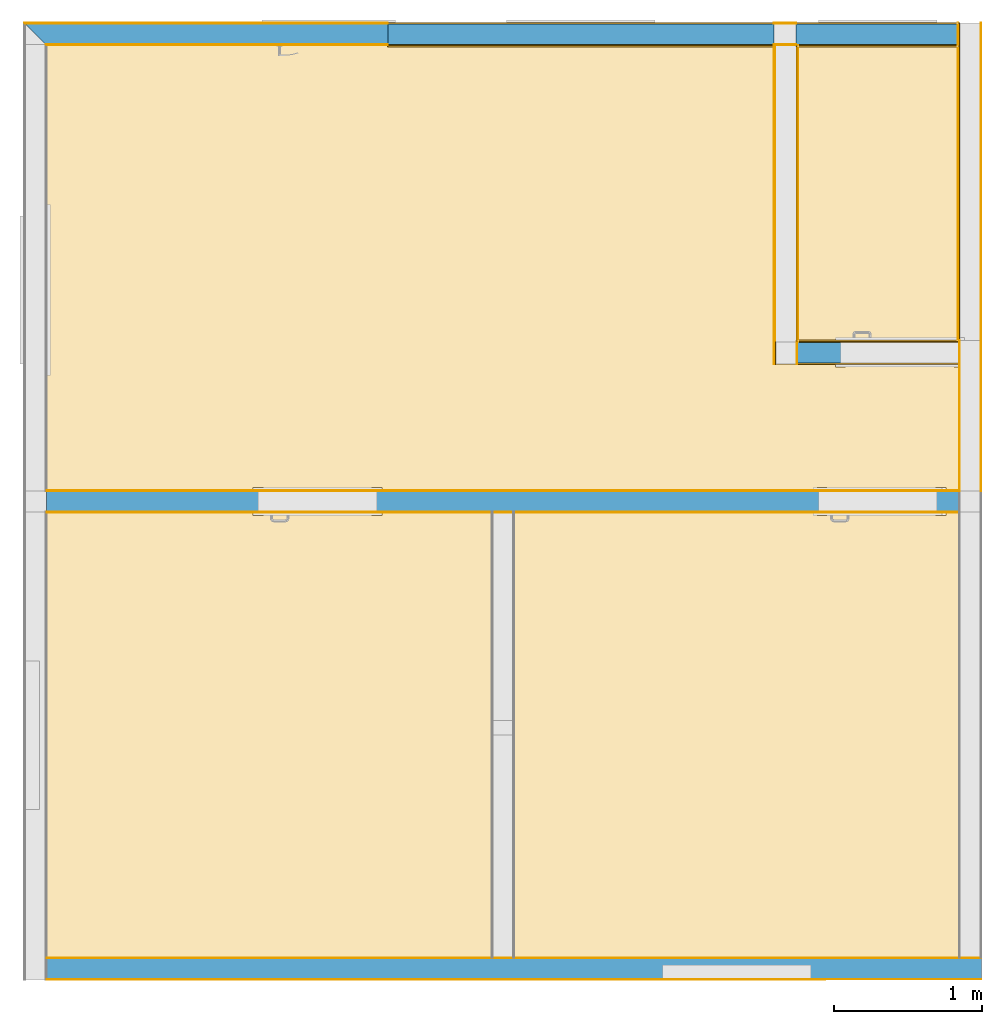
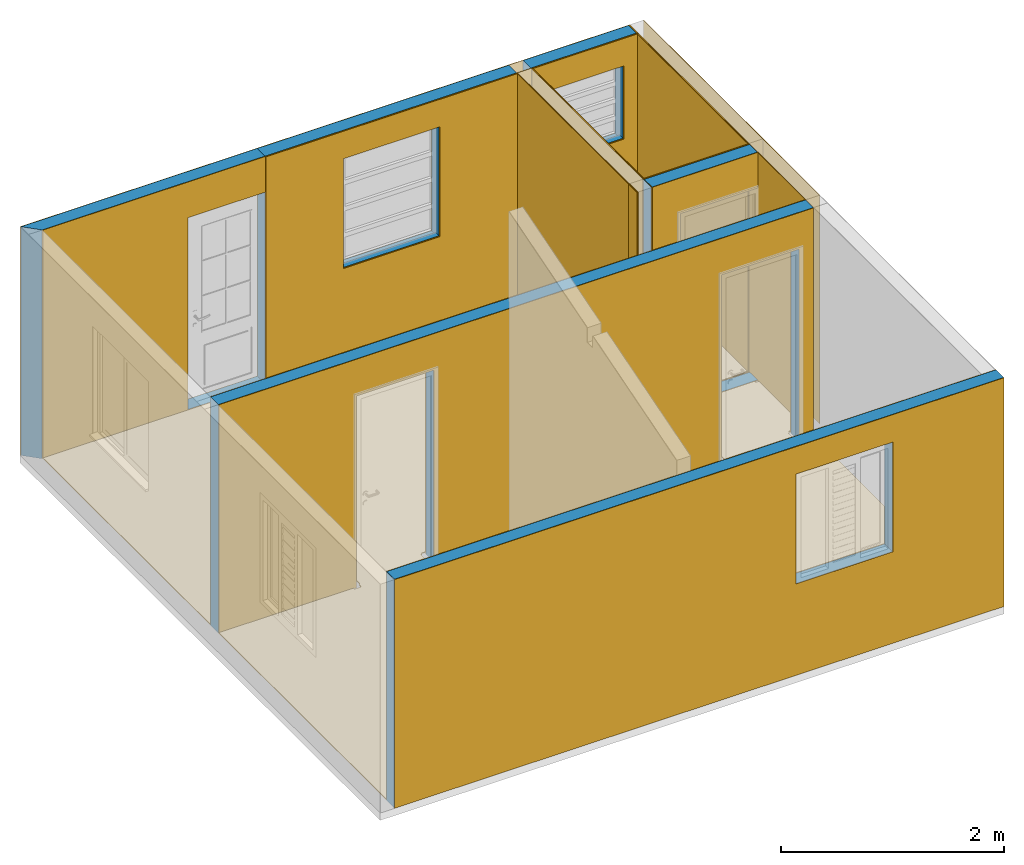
# One storey, part 3 of 7: 30 coverings, 6 building element parts, 7 openings, 11 elements without a shape of their own.
"""IFC2X3 building model written with IfcOpenShell, lengths in millimetres."""

import ifcopenshell
import ifcopenshell.guid

model = None  # the IFC model being written
_history = None  # IfcOwnerHistory: only IFC2X3 demands one
_inside = {}  # id of a spatial element -> (the spatial element, [elements in it])
_under = {}  # id of a project, library or spatial element -> (it, [spatial elements below it])
_declared = {}  # id of a project -> (the project, [libraries it declares])
_typed = {}  # id of a type object -> (the type object, [elements of that type])
_made_of = {}  # id of a material, layer set ... -> (it, [elements and type objects made of it])


def new_model(schema):
    """Start an empty IFC model of exactly this schema.

    Asked for "IFC4X3", IfcOpenShell would pick the latest addendum, in which some entities
    have other attributes; the version numbers below select the first issue.
    IFC2X3 requires an IfcOwnerHistory on every rooted entity: one is made here for all.
    """
    global model, _history
    if schema == "IFC4X3":
        model = ifcopenshell.file(schema_version=(4, 3, 0, 0))
    else:
        model = ifcopenshell.file(schema=schema)
    _inside.clear()
    _under.clear()
    _declared.clear()
    _typed.clear()
    _made_of.clear()
    _history = None
    if model.schema == "IFC2X3":
        org = make("IfcOrganization", Name="unknown")
        user = make(
            "IfcPersonAndOrganization",
            ThePerson=make("IfcPerson", FamilyName="unknown"),
            TheOrganization=org,
        )
        app = make(
            "IfcApplication",
            ApplicationDeveloper=org,
            Version="unknown",
            ApplicationFullName="unknown",
            ApplicationIdentifier="unknown",
        )
        _history = make(
            "IfcOwnerHistory",
            OwningUser=user,
            OwningApplication=app,
            ChangeAction="ADDED",
            CreationDate=0,
        )
    return model


def make(cls, **values):
    """One entity of the class cls with the attributes given. An attribute that is None is left unset."""
    return model.create_entity(
        cls, **{name: value for name, value in values.items() if value is not None}
    )


def entity(cls, *values):
    """Any entity or typed value of the class cls, its attributes in the order of the schema. None: left unset."""
    e = model.create_entity(cls)
    for i, value in enumerate(values):
        if value is not None:
            e[i] = value
    return e


def rooted(cls, **values):
    """An entity with a GlobalId (a new one), such as an element, a storey or a relation."""
    return make(cls, GlobalId=ifcopenshell.guid.new(), OwnerHistory=_history, **values)


def si_unit(unit_type, name, prefix=None):
    """IfcSIUnit, for example si_unit("LENGTHUNIT", "METRE", prefix="MILLI")."""
    return make("IfcSIUnit", UnitType=unit_type, Prefix=prefix, Name=name)


def converted_unit(unit_type, name, factor, base, dimensions=None, offset=None):
    """IfcConversionBasedUnit, such as the inch: factor (a typed value) times the base unit."""
    return make(
        "IfcConversionBasedUnit"
        if offset is None
        else "IfcConversionBasedUnitWithOffset",
        ConversionOffset=offset,
        Dimensions=None
        if dimensions is None
        else entity("IfcDimensionalExponents", *dimensions),
        UnitType=unit_type,
        Name=name,
        ConversionFactor=make(
            "IfcMeasureWithUnit", ValueComponent=factor, UnitComponent=base
        ),
    )


def derived_unit(unit_type, elements):
    """IfcDerivedUnit: a product of units, each with its exponent."""
    return make(
        "IfcDerivedUnit",
        Elements=[
            make("IfcDerivedUnitElement", Unit=unit, Exponent=power)
            for unit, power in elements
        ],
        UnitType=unit_type,
    )


def money_unit(currency):
    """IfcMonetaryUnit."""
    return make("IfcMonetaryUnit", Currency=currency)


def assignment(units):
    """IfcUnitAssignment: the units of a project."""
    return None if units is None else make("IfcUnitAssignment", Units=units)


def point(xyz):
    """IfcCartesianPoint."""
    return None if xyz is None else make("IfcCartesianPoint", Coordinates=xyz)


def direction(xyz):
    """IfcDirection."""
    return None if xyz is None else make("IfcDirection", DirectionRatios=xyz)


def frame(location, z_axis=None, x_axis=None):
    """IfcAxis2Placement3D, a coordinate frame: its origin and axes. An axis left out is left unset."""
    return make(
        "IfcAxis2Placement3D",
        Location=point(location),
        Axis=direction(z_axis),
        RefDirection=direction(x_axis),
    )


def frame_2d(location, x_axis=None):
    """IfcAxis2Placement2D, a coordinate frame in the plane: its origin and x axis."""
    return make(
        "IfcAxis2Placement2D", Location=point(location), RefDirection=direction(x_axis)
    )


def origin_with_axes():
    """The frame at (0, 0, 0) with the z axis (0, 0, 1) and the x axis (1, 0, 0) written out."""
    return frame((0.0, 0.0, 0.0), z_axis=(0.0, 0.0, 1.0), x_axis=(1.0, 0.0, 0.0))


def origin_2d_with_axis():
    """The frame at (0, 0) in the plane with the x axis (1, 0) written out."""
    return frame_2d((0.0, 0.0), x_axis=(1.0, 0.0))


def place(relative_to, where):
    """IfcLocalPlacement: puts the frame where relative to a parent placement (None: the world)."""
    return make(
        "IfcLocalPlacement", PlacementRelTo=relative_to, RelativePlacement=where
    )


def context(
    kind, dimensions, precision=None, world=None, true_north=None, identifier=None
):
    """IfcGeometricRepresentationContext, for example the 3D "Model" context."""
    return make(
        "IfcGeometricRepresentationContext",
        ContextIdentifier=identifier,
        ContextType=kind,
        CoordinateSpaceDimension=dimensions,
        Precision=precision,
        WorldCoordinateSystem=world,
        TrueNorth=true_north,
    )


def subcontext(parent, identifier, kind, view, scale=None):
    """IfcGeometricRepresentationSubContext, for example "Body" below "Model"."""
    return make(
        "IfcGeometricRepresentationSubContext",
        ContextIdentifier=identifier,
        ContextType=kind,
        ParentContext=parent,
        TargetScale=scale,
        TargetView=view,
    )


def project(units=None, contexts=None):
    """IfcProject with its units and contexts."""
    return rooted(
        "IfcProject",
        Name="project",
        RepresentationContexts=contexts,
        UnitsInContext=assignment(units),
    )


def spatial(cls, under=None, at=None, **own):
    """A site, building, storey or space (cls), placed at a placement, below another one or the project."""
    s = rooted(cls, ObjectPlacement=at, **own)
    if under is not None:
        _under.setdefault(under.id(), (under, []))[1].append(s)
    return s


def polyline(points):
    """IfcPolyline through the points."""
    return make("IfcPolyline", Points=[point(p) for p in points])


def profile(cls, at=None, kind="AREA", **sizes):
    """A parametric profile (cls). Its sizes go by their IFC names, for example OverallWidth=200.0."""
    return make(cls, ProfileType=kind, Position=at, **sizes)


def rectangle(**sizes):
    """IfcRectangleProfileDef."""
    return profile("IfcRectangleProfileDef", **sizes)


def outline(outer, holes=None, kind="AREA"):
    """IfcArbitraryClosedProfileDef: a profile drawn as a closed curve; with holes, ...WithVoids."""
    if holes is None:
        return make("IfcArbitraryClosedProfileDef", ProfileType=kind, OuterCurve=outer)
    return make(
        "IfcArbitraryProfileDefWithVoids",
        ProfileType=kind,
        OuterCurve=outer,
        InnerCurves=holes,
    )


def extrude(swept, where, along, depth):
    """IfcExtrudedAreaSolid: the profile swept, set in the frame where, extruded along a direction by depth."""
    return make(
        "IfcExtrudedAreaSolid",
        SweptArea=swept,
        Position=where,
        ExtrudedDirection=direction(along),
        Depth=depth,
    )


def shape(context_of_items, identifier, shape_type, items):
    """IfcShapeRepresentation: the items that make up one representation, for example the "Body"."""
    return make(
        "IfcShapeRepresentation",
        ContextOfItems=context_of_items,
        RepresentationIdentifier=identifier,
        RepresentationType=shape_type,
        Items=items,
    )


def material(Name=None, Category=None):
    """IfcMaterial."""
    return make("IfcMaterial", Name=Name, Category=Category)


def made_of(thing, what):
    """Note that an element or type object is made of a material, layer set ...; save() writes the relation."""
    if what is not None:
        _made_of.setdefault(what.id(), (what, []))[1].append(thing)
    return thing


def type_object(cls, material=None, **own):
    """A type object (cls), such as IfcWallType, which elements share."""
    return made_of(rooted(cls, **own), material)


def element(
    cls,
    number,
    at=None,
    inside=None,
    cuts=None,
    type_object=None,
    material=None,
    context=None,
    identifier="Body",
    shape_type=None,
    held_by="IfcProductDefinitionShape",
    body=None,
    shapes=None,
    **own,
):
    """One element of the class cls, such as IfcWall. Its Tag is "e" and its number.

    at: its placement. inside: the storey or other place that contains it. cuts: it is an
    opening in that element (IfcRelVoidsElement). A single representation is given by context,
    identifier, shape_type and body (its items); several are given by shapes. held_by: the class
    of the entity that holds the representations. save() writes the other relations.
    """
    e = rooted(cls, Tag="e%d" % number, ObjectPlacement=at, **own)
    if body is not None:
        shapes = [shape(context, identifier, shape_type, body)]
    if shapes is not None:
        e.Representation = make(held_by, Representations=shapes)
    if inside is not None:
        _inside.setdefault(inside.id(), (inside, []))[1].append(e)
    if cuts is not None:
        rooted(
            "IfcRelVoidsElement", RelatingBuildingElement=cuts, RelatedOpeningElement=e
        )
    if type_object is not None:
        _typed.setdefault(type_object.id(), (type_object, []))[1].append(e)
    return made_of(e, material)


def aggregate(whole, parts):
    """IfcRelAggregates: a whole, such as a stair, and the parts it consists of."""
    return rooted("IfcRelAggregates", RelatingObject=whole, RelatedObjects=parts)


def save(model, path):
    """Write the relations noted so far, then the file.

    IfcRelAggregates (storeys below a building ...), IfcRelContainedInSpatialStructure (elements
    in a storey), IfcRelDefinesByType, IfcRelAssociatesMaterial and IfcRelDeclares: one each for
    every whole, place, type object, material and project.
    """
    for whole, parts in _under.values():
        aggregate(whole, parts)
    for where, things in _inside.values():
        rooted(
            "IfcRelContainedInSpatialStructure",
            RelatedElements=things,
            RelatingStructure=where,
        )
    for kind, things in _typed.values():
        rooted("IfcRelDefinesByType", RelatedObjects=things, RelatingType=kind)
    for what, things in _made_of.values():
        rooted("IfcRelAssociatesMaterial", RelatedObjects=things, RelatingMaterial=what)
    for by, libraries in _declared.values():
        rooted("IfcRelDeclares", RelatingContext=by, RelatedDefinitions=libraries)
    model.write(path)


model = new_model("IFC2X3")

# Units and contexts
model_context = context("Model", 3, precision=0.01, world=origin_with_axes(), true_north=direction((0.0, 1.0)))
body_context = subcontext(model_context, "Body", "Model", "MODEL_VIEW")
ifc_project = project(units=[si_unit("LENGTHUNIT", "METRE", prefix="MILLI"), si_unit("AREAUNIT", "SQUARE_METRE"), si_unit("VOLUMEUNIT", "CUBIC_METRE"), converted_unit("PLANEANGLEUNIT", "DEGREE", entity("IfcPlaneAngleMeasure", 0.0174532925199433), si_unit("PLANEANGLEUNIT", "RADIAN"), dimensions=[0, 0, 0, 0, 0, 0, 0]), money_unit("USD"), converted_unit("TIMEUNIT", "Year", entity("IfcTimeMeasure", 31557600.0), si_unit("TIMEUNIT", "SECOND"), dimensions=[0, 0, 1, 0, 0, 0, 0]), si_unit("MASSUNIT", "GRAM", prefix="KILO"), si_unit("THERMODYNAMICTEMPERATUREUNIT", "DEGREE_CELSIUS"), si_unit("LUMINOUSINTENSITYUNIT", "LUMEN"), si_unit("ENERGYUNIT", "JOULE", prefix="MEGA"), derived_unit("THERMALCONDUCTANCEUNIT", [(si_unit("POWERUNIT", "WATT"), 1), (si_unit("LENGTHUNIT", "METRE"), -1), (si_unit("THERMODYNAMICTEMPERATUREUNIT", "KELVIN"), -1)]), derived_unit("SPECIFICHEATCAPACITYUNIT", [(si_unit("ENERGYUNIT", "JOULE"), 1), (si_unit("MASSUNIT", "GRAM", prefix="KILO"), -1), (si_unit("THERMODYNAMICTEMPERATUREUNIT", "KELVIN"), -1)]), derived_unit("MASSDENSITYUNIT", [(si_unit("MASSUNIT", "GRAM", prefix="KILO"), 1), (si_unit("VOLUMEUNIT", "CUBIC_METRE"), -1)])], contexts=[model_context])

# Site, building, storey
site_placement = place(None, origin_with_axes())
site = spatial("IfcSite", under=ifc_project, at=site_placement, Name="Local", CompositionType="ELEMENT")
building_placement = place(site_placement, origin_with_axes())
building = spatial("IfcBuilding", under=site, at=building_placement, Name="Construção", CompositionType="ELEMENT")
storey_placement = place(building_placement, origin_with_axes())
storey = spatial("IfcBuildingStorey", under=building, at=storey_placement, Name="Pavimento Térreo", CompositionType="ELEMENT", Elevation=0.0)

# Covering
ifc_material_1 = material(Name="Cerâmica")
covering_type = type_object("IfcCoveringType", Name="Cerâmica 10", PredefinedType="FLOORING")
covering_1_placement = place(storey_placement, frame((5209.999999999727, 6290.000000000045, 0.0), z_axis=(0.0, 0.0, 1.0), x_axis=(1.0, 0.0, 0.0)))
element("IfcCovering", 1, at=covering_1_placement, inside=storey, type_object=covering_type, material=ifc_material_1, Name="P01", PredefinedType="FLOORING", context=body_context, shape_type="SweptSolid", body=[
    extrude(outline(polyline([(0.0, 0.0), (0.0, -1980.000000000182), (254.7091901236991, -1980.000000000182), (255.0000000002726, -1971.000000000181), (325.0406814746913, -1971.000000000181), (325.0406814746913, -1990.000000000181), (330.0000000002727, -1990.000000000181), (330.0000000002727, -2020.000000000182), (340.0000000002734, -2020.000000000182), (340.0000000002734, -2140.000000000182), (325.0406814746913, -2140.744091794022), (325.0406814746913, -2159.691333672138), (255.0000000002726, -2159.000000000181), (255.0000000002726, -2140.000000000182), (-169.9999999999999, -2140.0), (-169.9999999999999, 0.0), (-2759.999999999, 0.0), (-2759.999999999, 9.999999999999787), (-2779.999999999, 9.999999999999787), (-2779.999999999, 160.0000000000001), (-3539.999999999, 160.0000000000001), (-3539.999999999, 9.999999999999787), (-5059.999999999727, 9.999999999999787), (-5059.999999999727, -2990.000000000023), (-3670.343714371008, -2989.999999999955), (-3670.000000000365, -2971.000000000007), (-3599.095766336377, -2971.000000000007), (-3599.095766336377, -2989.999999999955), (-3585.000000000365, -2990.000000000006), (-3585.000000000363, -3110.000000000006), (-3595.000000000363, -3110.000000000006), (-3595.000000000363, -3140.000000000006), (-3599.095766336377, -3140.000000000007), (-3600.048046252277, -3140.000000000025), (-3600.048046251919, -3159.197561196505), (-3670.000000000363, -3159.000000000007), (-3670.000000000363, -3140.000000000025), (-5059.999999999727, -3140.000000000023), (-5059.999999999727, -6140.000000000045), (-2060.0, -6140.000000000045), (-2060.0, -3139.99999999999), (-2800.866265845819, -3140.000000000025), (-2800.000000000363, -3158.999999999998), (-2869.797439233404, -3158.413207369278), (-2869.72003995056, -3140.000000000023), (-2875.000000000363, -3139.999999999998), (-2875.000000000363, -3109.999999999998), (-2885.000000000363, -3109.999999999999), (-2885.000000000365, -2989.999999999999), (-2869.720039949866, -2989.999999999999), (-2869.720039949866, -2971.000000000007), (-2800.000000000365, -2970.999999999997), (-2800.000000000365, -2989.999999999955), (129.6656462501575, -2989.999999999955), (130.0000000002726, -2970.999999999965), (199.8065061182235, -2971.000000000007), (199.8065061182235, -2989.999999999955), (215.0000000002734, -2989.999999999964), (215.0000000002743, -3109.999999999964), (205.0000000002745, -3109.999999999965), (205.0000000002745, -3139.999999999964), (199.8065061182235, -3139.999999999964), (199.8065061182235, -3159.000000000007), (130.0000000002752, -3158.999999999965), (130.0000000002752, -3140.000000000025), (-1910.0, -3139.999999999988), (-1910.0, -6140.000000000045), (1090.00000000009, -6140.000000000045), (1090.00000000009, -3139.999999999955), (1000.266337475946, -3140.000000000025), (1000.000000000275, -3158.999999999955), (929.5097546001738, -3159.000000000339), (929.5097546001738, -3140.000000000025), (925.0000000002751, -3139.999999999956), (925.0000000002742, -3109.999999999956), (915.0000000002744, -3109.999999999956), (915.0000000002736, -2989.999999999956), (929.5097546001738, -2989.999999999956), (929.5097546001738, -2969.921192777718), (1000.000000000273, -2970.999999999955), (1000.000000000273, -2989.999999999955), (1090.0, -2989.999999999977), (1090.00000000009, -2159.691333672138), (1054.774691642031, -2159.691333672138), (1054.774691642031, -2140.000000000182), (1040.000000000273, -2140.000000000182), (1040.000000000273, -2020.000000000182), (1050.000000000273, -2020.000000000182), (1050.000000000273, -1990.000000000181), (1054.774691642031, -1990.000000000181), (1054.774691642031, -1971.000000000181), (1080.000000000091, -1970.982898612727), (1080.000000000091, 0.0), (0.0, 0.0)])), origin_with_axes(), (0.0, 0.0, 1.0), 10.0),
])

# Wall, opening, coverings
wall_type_1 = type_object("IfcWallType", Name="Alvenaria 140, Rebocada 2 Faces 150", PredefinedType="NOTDEFINED")
wall_1_placement = place(storey_placement, frame((150.0, 0.0, 0.0), z_axis=(0.0, 0.0, 1.0), x_axis=(1.0, 0.0, 0.0)))
wall_1 = element("IfcWall", 2, at=wall_1_placement, inside=storey, type_object=wall_type_1, Name="Parede-02")
opening_1_placement = place(wall_1_placement, frame((4650.000000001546, 0.0, 1000.0), z_axis=(0.0, 0.0, 1.0), x_axis=(1.0, 0.0, 0.0)))
element("IfcOpeningElement", 3, at=opening_1_placement, cuts=wall_1, Name="J04", context=body_context, shape_type="SweptSolid", body=[
    extrude(rectangle(XDim=1000.0, YDim=1200.0, at=origin_2d_with_axis()), frame((0.0, 150.0000000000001, 600.0000000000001), z_axis=(0.0, -1.0, 0.0), x_axis=(-1.0, 0.0, 0.0)), (0.0, 0.0, 1.0), 450.0000000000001),
])
ifc_material_2 = material(Name="Reboco DEF")
covering_2_placement = place(wall_1_placement, origin_with_axes())
covering_2 = element("IfcCovering", 4, at=covering_2_placement, material=ifc_material_2, Name="Reboco DEF", PredefinedType="CLADDING", context=body_context, shape_type="SweptSolid", body=[
    extrude(outline(polyline([(0.0, 0.0), (6299.999999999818, 0.0), (6299.999999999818, 5.000000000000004), (0.0, 5.000000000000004), (0.0, 0.0)])), origin_with_axes(), (0.0, 0.0, 1.0), 2500.0),
])
covering_3_placement = place(wall_1_placement, origin_with_axes())
covering_3 = element("IfcCovering", 5, at=covering_3_placement, material=ifc_material_2, Name="Reboco DEF", PredefinedType="CLADDING", context=body_context, shape_type="SweptSolid", body=[
    extrude(outline(polyline([(0.0, 145.0), (6299.999999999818, 145.0), (6299.999999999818, 150.0), (0.0, 150.0), (0.0, 145.0)])), origin_with_axes(), (0.0, 0.0, 1.0), 2500.0),
])

wall_type_2 = type_object("IfcWallType", Name="Alvenaria 140, Rebocada + Azulejo 160", PredefinedType="NOTDEFINED")
wall_2_placement = place(storey_placement, frame((6299.999999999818, 6450.000000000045, 0.0), z_axis=(0.0, 0.0, 1.0), x_axis=(-1.0, 0.0, 0.0)))
wall_2 = element("IfcWall", 6, at=wall_2_placement, inside=storey, type_object=wall_type_2, Name="Parede-04 - Trecho 4")
opening_2_placement = place(wall_2_placement, frame((550.0000000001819, 0.0, 1400.0), z_axis=(0.0, 0.0, 1.0), x_axis=(1.0, 0.0, 0.0)))
element("IfcOpeningElement", 7, at=opening_2_placement, cuts=wall_2, Name="J05", context=body_context, shape_type="SweptSolid", body=[
    extrude(rectangle(XDim=800.0000000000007, YDim=800.0000000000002, at=origin_2d_with_axis()), frame((0.0, 49.99999999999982, 400.0000000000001), z_axis=(0.0, -1.0, 0.0), x_axis=(-1.0, 0.0, 0.0)), (0.0, 0.0, -1.0), 270.0000000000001),
    extrude(rectangle(XDim=800.0000000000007, YDim=800.0000000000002, at=origin_2d_with_axis()), frame((0.0, 49.99999999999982, 400.0000000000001), z_axis=(0.0, 1.0, 0.0), x_axis=(-1.0, 0.0, 0.0)), (0.0, 0.0, -1.0), 210.0),
    extrude(rectangle(XDim=800.0000000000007, YDim=30.00000000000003, at=origin_2d_with_axis()), frame((0.0, 84.99999999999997, -15.00000000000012), z_axis=(0.0, 1.0, 0.0), x_axis=(-1.0, 0.0, 0.0)), (0.0, 0.0, -1.0), 195.0),
])
covering_4_placement = place(wall_2_placement, origin_with_axes())
covering_4 = element("IfcCovering", 8, at=covering_4_placement, material=ifc_material_2, Name="Reboco DEF", PredefinedType="CLADDING", context=body_context, shape_type="SweptSolid", body=[
    extrude(outline(polyline([(0.0, 0.0), (1100.00000000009, 0.0), (1100.00000000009, 4.999999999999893), (0.0, 4.999999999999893), (0.0, 0.0)])), origin_with_axes(), (0.0, 0.0, 1.0), 2500.0),
])
ifc_material_3 = material(Name="Argamassa Colante DEF")
covering_5_placement = place(wall_2_placement, origin_with_axes())
covering_5 = element("IfcCovering", 9, at=covering_5_placement, material=ifc_material_3, Name="Argamassa Colante DEF", PredefinedType="CLADDING", context=body_context, shape_type="SweptSolid", body=[
    extrude(outline(polyline([(0.0, 145.0000000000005), (1100.00000000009, 145.0000000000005), (1100.00000000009, 155.0000000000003), (0.0, 155.0000000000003), (0.0, 145.0000000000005)])), origin_with_axes(), (0.0, 0.0, 1.0), 2500.0),
])
ifc_material_4 = material(Name="Azulejo DEF")
covering_6_placement = place(wall_2_placement, origin_with_axes())
covering_6 = element("IfcCovering", 10, at=covering_6_placement, material=ifc_material_4, Name="Azulejo DEF", PredefinedType="CLADDING", context=body_context, shape_type="SweptSolid", body=[
    extrude(outline(polyline([(0.0, 155.0000000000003), (1100.00000000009, 155.0000000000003), (1100.00000000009, 160.0000000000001), (0.0, 160.0000000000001), (0.0, 155.0000000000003)])), origin_with_axes(), (0.0, 0.0, 1.0), 2500.0),
])

# Wall, coverings
wall_type_3 = type_object("IfcWallType", Name="Alvenaria 140, Azulejo + Rebocada 160", PredefinedType="NOTDEFINED")
wall_3_placement = place(storey_placement, frame((5049.999999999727, 4299.999999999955, 0.0), z_axis=(0.0, 0.0, 1.0), x_axis=(0.0, -1.0, 0.0)))
wall_3 = element("IfcWall", 11, at=wall_3_placement, inside=storey, type_object=wall_type_3, Name="Parede-07 - Trecho 2")
covering_7_placement = place(wall_3_placement, origin_with_axes())
covering_7 = element("IfcCovering", 12, at=covering_7_placement, material=ifc_material_4, Name="Azulejo DEF", PredefinedType="CLADDING", context=body_context, shape_type="SweptSolid", body=[
    extrude(outline(polyline([(0.0, 0.0), (150.0000000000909, 0.0), (150.0000000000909, 4.999999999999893), (0.0, 4.999999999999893), (0.0, 0.0)])), origin_with_axes(), (0.0, 0.0, 1.0), 2500.0),
])
covering_8_placement = place(wall_3_placement, origin_with_axes())
covering_8 = element("IfcCovering", 13, at=covering_8_placement, material=ifc_material_3, Name="Argamassa Colante DEF", PredefinedType="CLADDING", context=body_context, shape_type="SweptSolid", body=[
    extrude(outline(polyline([(0.0, 4.999999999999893), (150.0000000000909, 4.999999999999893), (150.0000000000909, 14.99999999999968), (0.0, 14.99999999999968), (0.0, 4.999999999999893)])), origin_with_axes(), (0.0, 0.0, 1.0), 2500.0),
])
covering_9_placement = place(wall_3_placement, origin_with_axes())
covering_9 = element("IfcCovering", 14, at=covering_9_placement, material=ifc_material_2, Name="Reboco DEF", PredefinedType="CLADDING", context=body_context, shape_type="SweptSolid", body=[
    extrude(outline(polyline([(0.0, 155.0000000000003), (150.0000000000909, 155.0000000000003), (150.0000000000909, 160.0000000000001), (0.0, 160.0000000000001), (0.0, 155.0000000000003)])), origin_with_axes(), (0.0, 0.0, 1.0), 2500.0),
])
aggregate(wall_3, [covering_7, covering_8, covering_9])

wall_type_4 = type_object("IfcWallType", Name="Alvenaria 140, Azulejo + Azulejo 165", PredefinedType="NOTDEFINED")
wall_4_placement = place(storey_placement, frame((5049.999999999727, 6299.999999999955, 0.0), z_axis=(0.0, 0.0, 1.0), x_axis=(0.0, -1.0, 0.0)))
wall_4 = element("IfcWall", 15, at=wall_4_placement, inside=storey, type_object=wall_type_4, Name="Parede-07 - Trecho 1")
covering_10_placement = place(wall_4_placement, origin_with_axes())
covering_10 = element("IfcCovering", 16, at=covering_10_placement, material=ifc_material_4, Name="Azulejo DEF", PredefinedType="CLADDING", context=body_context, shape_type="SweptSolid", body=[
    extrude(outline(polyline([(0.0, 0.0), (2000.0, 0.0), (2000.0, 4.999999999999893), (0.0, 4.999999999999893), (0.0, 0.0)])), origin_with_axes(), (0.0, 0.0, 1.0), 2500.0),
])
covering_11_placement = place(wall_4_placement, origin_with_axes())
covering_11 = element("IfcCovering", 17, at=covering_11_placement, material=ifc_material_3, Name="Argamassa Colante DEF", PredefinedType="CLADDING", context=body_context, shape_type="SweptSolid", body=[
    extrude(outline(polyline([(0.0, 4.999999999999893), (2000.0, 4.999999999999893), (2000.0, 9.999999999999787), (0.0, 9.999999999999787), (0.0, 4.999999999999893)])), origin_with_axes(), (0.0, 0.0, 1.0), 2500.0),
])
covering_12_placement = place(wall_4_placement, origin_with_axes())
covering_12 = element("IfcCovering", 18, at=covering_12_placement, material=ifc_material_3, Name="Argamassa Colante DEF", PredefinedType="CLADDING", context=body_context, shape_type="SweptSolid", body=[
    extrude(outline(polyline([(0.0, 150.0000000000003), (2000.0, 150.0000000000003), (2000.0, 160.0000000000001), (0.0, 160.0000000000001), (0.0, 150.0000000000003)])), origin_with_axes(), (0.0, 0.0, 1.0), 2500.0),
])
covering_13_placement = place(wall_4_placement, origin_with_axes())
covering_13 = element("IfcCovering", 19, at=covering_13_placement, material=ifc_material_4, Name="Azulejo DEF", PredefinedType="CLADDING", context=body_context, shape_type="SweptSolid", body=[
    extrude(outline(polyline([(0.0, 160.0000000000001), (2000.0, 160.0000000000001), (2000.0, 165.0), (0.0, 165.0), (0.0, 160.0000000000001)])), origin_with_axes(), (0.0, 0.0, 1.0), 2500.0),
])
aggregate(wall_4, [covering_10, covering_11, covering_12, covering_13])

# Wall, opening, coverings
wall_5_placement = place(storey_placement, frame((5199.999999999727, 4149.999999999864, 0.0), z_axis=(0.0, 0.0, 1.0), x_axis=(1.0, 0.0, 0.0)))
wall_5 = element("IfcWall", 20, at=wall_5_placement, inside=storey, type_object=wall_type_2, Name="Parede-08")
opening_3_placement = place(wall_5_placement, frame((700.0000000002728, 0.0, 10.0), z_axis=(0.0, 0.0, 1.0), x_axis=(1.0, 0.0, 0.0)))
element("IfcOpeningElement", 21, at=opening_3_placement, cuts=wall_5, Name="P02", context=body_context, shape_type="SweptSolid", body=[
    extrude(rectangle(XDim=800.0000000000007, YDim=2100.0, at=origin_2d_with_axis()), frame((0.0, 160.0000000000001, 1050.0), z_axis=(0.0, -1.0, 0.0), x_axis=(1.0, 0.0, 0.0)), (0.0, 0.0, 1.0), 480.0000000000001),
    extrude(rectangle(XDim=870.000000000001, YDim=2135.0, at=origin_2d_with_axis()), frame((0.0, 160.0000000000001, 1067.5), z_axis=(0.0, -1.0, 0.0), x_axis=(1.0, 0.0, 0.0)), (0.0, 0.0, -1.0), 160.0),
    extrude(rectangle(XDim=870.000000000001, YDim=2135.0, at=origin_2d_with_axis()), frame((0.0, 0.0, 1067.5), z_axis=(0.0, 1.0, 0.0), x_axis=(1.0, 0.0, 0.0)), (0.0, 0.0, -1.0), 160.0),
])
covering_14_placement = place(wall_5_placement, origin_with_axes())
covering_14 = element("IfcCovering", 22, at=covering_14_placement, material=ifc_material_2, Name="Reboco DEF", PredefinedType="CLADDING", context=body_context, shape_type="SweptSolid", body=[
    extrude(outline(polyline([(0.0, 0.0), (1100.00000000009, 0.0), (1100.00000000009, 4.999999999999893), (0.0, 4.999999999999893), (0.0, 0.0)])), origin_with_axes(), (0.0, 0.0, 1.0), 2500.0),
])
covering_15_placement = place(wall_5_placement, origin_with_axes())
covering_15 = element("IfcCovering", 23, at=covering_15_placement, material=ifc_material_3, Name="Argamassa Colante DEF", PredefinedType="CLADDING", context=body_context, shape_type="SweptSolid", body=[
    extrude(outline(polyline([(0.0, 145.0000000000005), (1100.00000000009, 145.0000000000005), (1100.00000000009, 155.0000000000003), (0.0, 155.0000000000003), (0.0, 145.0000000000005)])), origin_with_axes(), (0.0, 0.0, 1.0), 2500.0),
])
covering_16_placement = place(wall_5_placement, origin_with_axes())
covering_16 = element("IfcCovering", 24, at=covering_16_placement, material=ifc_material_4, Name="Azulejo DEF", PredefinedType="CLADDING", context=body_context, shape_type="SweptSolid", body=[
    extrude(outline(polyline([(0.0, 155.0000000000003), (1100.00000000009, 155.0000000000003), (1100.00000000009, 160.0000000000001), (0.0, 160.0000000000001), (0.0, 155.0000000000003)])), origin_with_axes(), (0.0, 0.0, 1.0), 2500.0),
])

# Wall, openings, coverings
wall_6_placement = place(storey_placement, frame((6449.999999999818, 3300.00000000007, 0.0), z_axis=(0.0, 0.0, 1.0), x_axis=(-1.0, 0.0, 0.0)))
wall_6 = element("IfcWall", 25, at=wall_6_placement, inside=storey, type_object=wall_type_1, Name="Parede-05")
opening_4_placement = place(wall_6_placement, frame((700.0000000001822, 0.0, 0.0), z_axis=(0.0, 0.0, 1.0), x_axis=(1.0, 0.0, 0.0)))
element("IfcOpeningElement", 26, at=opening_4_placement, cuts=wall_6, Name="P04", context=body_context, shape_type="SweptSolid", body=[
    extrude(rectangle(XDim=800.0000000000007, YDim=2100.0, at=origin_2d_with_axis()), frame((0.0, 149.9999999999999, 1050.0), z_axis=(0.0, 1.0, 0.0), x_axis=(-1.0, 0.0, 0.0)), (0.0, 0.0, -1.0), 450.0000000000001),
    extrude(rectangle(XDim=870.000000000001, YDim=2135.0, at=origin_2d_with_axis()), frame((0.0, 149.9999999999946, 1067.5), z_axis=(0.0, 1.0, 0.0), x_axis=(-1.0, 0.0, 0.0)), (0.0, 0.0, 1.0), 150.0),
    extrude(rectangle(XDim=870.000000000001, YDim=2135.0, at=origin_2d_with_axis()), frame((0.0, 0.0, 1067.5), z_axis=(0.0, -1.0, 0.0), x_axis=(-1.0, 0.0, 0.0)), (0.0, 0.0, 1.0), 150.0),
])
opening_5_placement = place(wall_6_placement, frame((4475.000000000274, 0.0, 0.0), z_axis=(0.0, 0.0, 1.0), x_axis=(1.0, 0.0, 0.0)))
element("IfcOpeningElement", 27, at=opening_5_placement, cuts=wall_6, Name="P03", context=body_context, shape_type="SweptSolid", body=[
    extrude(rectangle(XDim=799.9999999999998, YDim=2100.0, at=origin_2d_with_axis()), frame((0.0, -149.9999999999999, 1050.0), z_axis=(0.0, -1.0, 0.0), x_axis=(-1.0, 0.0, 0.0)), (0.0, 0.0, -1.0), 450.0000000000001),
    extrude(rectangle(XDim=870.0000000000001, YDim=2135.0, at=origin_2d_with_axis()), frame((0.0, 0.0, 1067.5), z_axis=(0.0, -1.0, 0.0), x_axis=(-1.0, 0.0, 0.0)), (0.0, 0.0, 1.0), 150.0),
    extrude(rectangle(XDim=870.0000000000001, YDim=2135.0, at=origin_2d_with_axis()), frame((0.0, 149.9999999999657, 1067.5), z_axis=(0.0, 1.0, 0.0), x_axis=(-1.0, 0.0, 0.0)), (0.0, 0.0, 1.0), 150.0),
])
covering_17_placement = place(wall_6_placement, origin_with_axes())
covering_17 = element("IfcCovering", 28, at=covering_17_placement, material=ifc_material_2, Name="Reboco DEF", PredefinedType="CLADDING", context=body_context, shape_type="SweptSolid", body=[
    extrude(outline(polyline([(150.0000000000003, 0.0), (6299.999999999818, 0.0), (6299.999999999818, 4.999999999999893), (150.0000000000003, 4.999999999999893), (150.0000000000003, 0.0)])), origin_with_axes(), (0.0, 0.0, 1.0), 2500.0),
])
covering_18_placement = place(wall_6_placement, origin_with_axes())
covering_18 = element("IfcCovering", 29, at=covering_18_placement, material=ifc_material_2, Name="Reboco DEF", PredefinedType="CLADDING", context=body_context, shape_type="SweptSolid", body=[
    extrude(outline(polyline([(150.0000000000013, 145.0), (6299.999999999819, 145.0), (6299.999999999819, 149.9999999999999), (150.0000000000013, 149.9999999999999), (150.0000000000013, 145.0)])), origin_with_axes(), (0.0, 0.0, 1.0), 2500.0),
])

# Wall, opening, coverings
wall_7_placement = place(storey_placement, frame((2450.000000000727, 6450.000000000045, 0.0), z_axis=(0.0, 0.0, 1.0), x_axis=(-1.0, 0.0, 0.0)))
wall_7 = element("IfcWall", 30, at=wall_7_placement, inside=storey, type_object=wall_type_1, Name="Parede-04 - Trecho 1")
opening_6_placement = place(wall_7_placement, frame((399.9999999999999, 0.0, 10.0), z_axis=(0.0, 0.0, 1.0), x_axis=(1.0, 0.0, 0.0)))
element("IfcOpeningElement", 31, at=opening_6_placement, cuts=wall_7, Name="P01", context=body_context, shape_type="SweptSolid", body=[
    extrude(rectangle(XDim=799.9999999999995, YDim=2100.0, at=origin_2d_with_axis()), frame((0.0, 150.0000000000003, 1050.0), z_axis=(0.0, 1.0, 0.0), x_axis=(-1.0, 0.0, 0.0)), (0.0, 0.0, -1.0), 450.0000000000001),
    extrude(rectangle(XDim=900.0000000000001, YDim=2150.0, at=origin_2d_with_axis()), frame((0.0, 0.0, 1075.0), z_axis=(0.0, -1.0, 0.0), x_axis=(-1.0, 0.0, 0.0)), (0.0, 0.0, 1.0), 150.0),
])
covering_19_placement = place(wall_7_placement, origin_with_axes())
covering_19 = element("IfcCovering", 32, at=covering_19_placement, material=ifc_material_2, Name="Reboco DEF", PredefinedType="CLADDING", context=body_context, shape_type="SweptSolid", body=[
    extrude(outline(polyline([(0.0, 0.0), (2450.000000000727, 0.0), (2445.000000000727, 4.999999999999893), (0.0, 4.999999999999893), (0.0, 0.0)])), origin_with_axes(), (0.0, 0.0, 1.0), 2500.0),
])
covering_20_placement = place(wall_7_placement, origin_with_axes())
covering_20 = element("IfcCovering", 33, at=covering_20_placement, material=ifc_material_2, Name="Reboco DEF", PredefinedType="CLADDING", context=body_context, shape_type="SweptSolid", body=[
    extrude(outline(polyline([(0.0, 145.0000000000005), (2305.000000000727, 145.0000000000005), (2300.000000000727, 150.0000000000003), (0.0, 150.0000000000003), (0.0, 145.0000000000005)])), origin_with_axes(), (0.0, 0.0, 1.0), 2500.0),
])

wall_8_placement = place(storey_placement, frame((5049.999999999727, 6450.000000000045, 0.0), z_axis=(0.0, 0.0, 1.0), x_axis=(-1.0, 0.0, 0.0)))
wall_8 = element("IfcWall", 34, at=wall_8_placement, inside=storey, type_object=wall_type_2, Name="Parede-04 - Trecho 2")
opening_7_placement = place(wall_8_placement, frame((1299.999999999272, 0.0, 1000.0), z_axis=(0.0, 0.0, 1.0), x_axis=(1.0, 0.0, 0.0)))
element("IfcOpeningElement", 35, at=opening_7_placement, cuts=wall_8, Name="J01", context=body_context, shape_type="SweptSolid", body=[
    extrude(rectangle(XDim=999.9999999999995, YDim=1200.0, at=origin_2d_with_axis()), frame((0.0, 49.99999999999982, 600.0000000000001), z_axis=(0.0, -1.0, 0.0), x_axis=(-1.0, 0.0, 0.0)), (0.0, 0.0, -1.0), 270.0000000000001),
    extrude(rectangle(XDim=1000.0, YDim=1200.0, at=origin_2d_with_axis()), frame((0.0, 49.99999999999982, 600.0000000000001), z_axis=(0.0, 1.0, 0.0), x_axis=(-1.0, 0.0, 0.0)), (0.0, 0.0, -1.0), 210.0),
    extrude(rectangle(XDim=1000.0, YDim=30.00000000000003, at=origin_2d_with_axis()), frame((0.0, 84.99999999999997, -15.00000000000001), z_axis=(0.0, 1.0, 0.0), x_axis=(-1.0, 0.0, 0.0)), (0.0, 0.0, -1.0), 195.0),
])
covering_21_placement = place(wall_8_placement, origin_with_axes())
covering_21 = element("IfcCovering", 36, at=covering_21_placement, material=ifc_material_2, Name="Reboco DEF", PredefinedType="CLADDING", context=body_context, shape_type="SweptSolid", body=[
    extrude(outline(polyline([(0.0, 0.0), (2599.999999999, 0.0), (2599.999999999, 4.999999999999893), (0.0, 4.999999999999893), (0.0, 0.0)])), origin_with_axes(), (0.0, 0.0, 1.0), 2500.0),
])
covering_22_placement = place(wall_8_placement, origin_with_axes())
covering_22 = element("IfcCovering", 37, at=covering_22_placement, material=ifc_material_3, Name="Argamassa Colante DEF", PredefinedType="CLADDING", context=body_context, shape_type="SweptSolid", body=[
    extrude(outline(polyline([(0.0, 145.0000000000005), (2599.999999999, 145.0000000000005), (2599.999999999, 155.0000000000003), (0.0, 155.0000000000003), (0.0, 145.0000000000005)])), origin_with_axes(), (0.0, 0.0, 1.0), 2500.0),
])
covering_23_placement = place(wall_8_placement, origin_with_axes())
covering_23 = element("IfcCovering", 38, at=covering_23_placement, material=ifc_material_4, Name="Azulejo DEF", PredefinedType="CLADDING", context=body_context, shape_type="SweptSolid", body=[
    extrude(outline(polyline([(0.0, 155.0000000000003), (2599.999999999, 155.0000000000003), (2599.999999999, 160.0000000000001), (0.0, 160.0000000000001), (0.0, 155.0000000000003)])), origin_with_axes(), (0.0, 0.0, 1.0), 2500.0),
])

# Wall, coverings
wall_9_placement = place(storey_placement, frame((6449.999999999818, 4309.999999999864, 0.0), z_axis=(0.0, 0.0, 1.0), x_axis=(0.0, 1.0, 0.0)))
wall_9 = element("IfcWall", 39, at=wall_9_placement, inside=storey, type_object=wall_type_2, Name="Parede-03 - Trecho 1")
covering_24_placement = place(wall_9_placement, origin_with_axes())
covering_24 = element("IfcCovering", 40, at=covering_24_placement, material=ifc_material_2, Name="Reboco DEF", PredefinedType="CLADDING", context=body_context, shape_type="SweptSolid", body=[
    extrude(outline(polyline([(0.0, 0.0), (2140.000000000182, 0.0), (2140.000000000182, 4.999999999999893), (0.0, 4.999999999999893), (0.0, 0.0)])), origin_with_axes(), (0.0, 0.0, 1.0), 2500.0),
])
covering_25_placement = place(wall_9_placement, origin_with_axes())
covering_25 = element("IfcCovering", 41, at=covering_25_placement, material=ifc_material_3, Name="Argamassa Colante DEF", PredefinedType="CLADDING", context=body_context, shape_type="SweptSolid", body=[
    extrude(outline(polyline([(0.0, 145.0000000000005), (2140.000000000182, 145.0000000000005), (2140.000000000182, 155.0000000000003), (0.0, 155.0000000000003), (0.0, 145.0000000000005)])), origin_with_axes(), (0.0, 0.0, 1.0), 2500.0),
])
covering_26_placement = place(wall_9_placement, origin_with_axes())
covering_26 = element("IfcCovering", 42, at=covering_26_placement, material=ifc_material_4, Name="Azulejo DEF", PredefinedType="CLADDING", context=body_context, shape_type="SweptSolid", body=[
    extrude(outline(polyline([(0.0, 155.0000000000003), (2140.000000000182, 155.0000000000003), (2140.000000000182, 160.0000000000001), (0.0, 160.0000000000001), (0.0, 155.0000000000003)])), origin_with_axes(), (0.0, 0.0, 1.0), 2500.0),
])
aggregate(wall_9, [covering_24, covering_25, covering_26])

wall_10_placement = place(storey_placement, frame((5199.999999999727, 6450.000000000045, 0.0), z_axis=(0.0, 0.0, 1.0), x_axis=(-1.0, 0.0, 0.0)))
wall_10 = element("IfcWall", 43, at=wall_10_placement, inside=storey, type_object=wall_type_1, Name="Parede-04 - Trecho 3")
covering_27_placement = place(wall_10_placement, origin_with_axes())
covering_27 = element("IfcCovering", 44, at=covering_27_placement, material=ifc_material_2, Name="Reboco DEF", PredefinedType="CLADDING", context=body_context, shape_type="SweptSolid", body=[
    extrude(outline(polyline([(0.0, 0.0), (150.0000000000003, 0.0), (150.0000000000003, 4.999999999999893), (0.0, 4.999999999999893), (0.0, 0.0)])), origin_with_axes(), (0.0, 0.0, 1.0), 2500.0),
])
covering_28_placement = place(wall_10_placement, origin_with_axes())
covering_28 = element("IfcCovering", 45, at=covering_28_placement, material=ifc_material_2, Name="Reboco DEF", PredefinedType="CLADDING", context=body_context, shape_type="SweptSolid", body=[
    extrude(outline(polyline([(0.0, 145.0000000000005), (150.0000000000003, 145.0000000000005), (150.0000000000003, 150.0000000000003), (0.0, 150.0000000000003), (0.0, 145.0000000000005)])), origin_with_axes(), (0.0, 0.0, 1.0), 2500.0),
])
aggregate(wall_10, [covering_27, covering_28])

wall_11_placement = place(storey_placement, frame((6449.999999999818, 3295.00000000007, 0.0), z_axis=(0.0, 0.0, 1.0), x_axis=(0.0, 1.0, 0.0)))
wall_11 = element("IfcWall", 46, at=wall_11_placement, inside=storey, type_object=wall_type_1, Name="Parede-03 - Trecho 2")
covering_29_placement = place(wall_11_placement, origin_with_axes())
covering_29 = element("IfcCovering", 47, at=covering_29_placement, material=ifc_material_2, Name="Reboco DEF", PredefinedType="CLADDING", context=body_context, shape_type="SweptSolid", body=[
    extrude(outline(polyline([(0.0, 0.0), (1014.999999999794, 0.0), (1014.999999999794, 4.999999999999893), (0.0, 4.999999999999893), (0.0, 0.0)])), origin_with_axes(), (0.0, 0.0, 1.0), 2500.0),
])
covering_30_placement = place(wall_11_placement, origin_with_axes())
covering_30 = element("IfcCovering", 48, at=covering_30_placement, material=ifc_material_2, Name="Reboco DEF", PredefinedType="CLADDING", context=body_context, shape_type="SweptSolid", body=[
    extrude(outline(polyline([(0.0, 145.0000000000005), (1014.999999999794, 145.0000000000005), (1014.999999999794, 150.0000000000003), (0.0, 150.0000000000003), (0.0, 145.0000000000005)])), origin_with_axes(), (0.0, 0.0, 1.0), 2500.0),
])
aggregate(wall_11, [covering_29, covering_30])

# Building element part
ifc_material_5 = material(Name="Bloco de Concreto - Estrutural DEF")
building_element_part_1_placement = place(wall_1_placement, origin_with_axes())
building_element_part_1 = element("IfcBuildingElementPart", 49, at=building_element_part_1_placement, material=ifc_material_5, Name="Bloco de Concreto - Estrutural DEF", context=body_context, shape_type="SweptSolid", body=[
    extrude(outline(polyline([(0.0, 4.999999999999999), (6299.999999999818, 4.999999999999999), (6299.999999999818, 145.0), (0.0, 145.0), (0.0, 4.999999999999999)])), origin_with_axes(), (0.0, 0.0, 1.0), 2500.0),
])

aggregate(wall_1, [covering_2, building_element_part_1, covering_3])

building_element_part_2_placement = place(wall_2_placement, origin_with_axes())
building_element_part_2 = element("IfcBuildingElementPart", 50, at=building_element_part_2_placement, material=ifc_material_5, Name="Bloco de Concreto - Estrutural DEF", context=body_context, shape_type="SweptSolid", body=[
    extrude(outline(polyline([(0.0, 4.999999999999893), (1100.00000000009, 4.999999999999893), (1100.00000000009, 145.0000000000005), (0.0, 145.0000000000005), (0.0, 4.999999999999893)])), origin_with_axes(), (0.0, 0.0, 1.0), 2500.0),
])

aggregate(wall_2, [covering_4, building_element_part_2, covering_5, covering_6])

building_element_part_3_placement = place(wall_5_placement, origin_with_axes())
building_element_part_3 = element("IfcBuildingElementPart", 51, at=building_element_part_3_placement, material=ifc_material_5, Name="Bloco de Concreto - Estrutural DEF", context=body_context, shape_type="SweptSolid", body=[
    extrude(outline(polyline([(0.0, 4.999999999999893), (1100.00000000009, 4.999999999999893), (1100.00000000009, 145.0000000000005), (0.0, 145.0000000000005), (0.0, 4.999999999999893)])), origin_with_axes(), (0.0, 0.0, 1.0), 2500.0),
])

aggregate(wall_5, [covering_14, building_element_part_3, covering_15, covering_16])

building_element_part_4_placement = place(wall_6_placement, origin_with_axes())
building_element_part_4 = element("IfcBuildingElementPart", 52, at=building_element_part_4_placement, material=ifc_material_5, Name="Bloco de Concreto - Estrutural DEF", context=body_context, shape_type="SweptSolid", body=[
    extrude(outline(polyline([(150.0000000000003, 4.999999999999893), (6299.999999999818, 4.999999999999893), (6299.999999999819, 145.0), (150.0000000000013, 145.0), (150.0000000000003, 4.999999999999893)])), origin_with_axes(), (0.0, 0.0, 1.0), 2500.0),
])

aggregate(wall_6, [covering_17, building_element_part_4, covering_18])

building_element_part_5_placement = place(wall_7_placement, origin_with_axes())
building_element_part_5 = element("IfcBuildingElementPart", 53, at=building_element_part_5_placement, material=ifc_material_5, Name="Bloco de Concreto - Estrutural DEF", context=body_context, shape_type="SweptSolid", body=[
    extrude(outline(polyline([(0.0, 4.999999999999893), (2445.000000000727, 4.999999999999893), (2305.000000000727, 145.0000000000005), (0.0, 145.0000000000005), (0.0, 4.999999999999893)])), origin_with_axes(), (0.0, 0.0, 1.0), 2500.0),
])

aggregate(wall_7, [covering_19, building_element_part_5, covering_20])

building_element_part_6_placement = place(wall_8_placement, origin_with_axes())
building_element_part_6 = element("IfcBuildingElementPart", 54, at=building_element_part_6_placement, material=ifc_material_5, Name="Bloco de Concreto - Estrutural DEF", context=body_context, shape_type="SweptSolid", body=[
    extrude(outline(polyline([(0.0, 4.999999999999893), (2599.999999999, 4.999999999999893), (2599.999999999, 145.0000000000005), (0.0, 145.0000000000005), (0.0, 4.999999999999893)])), origin_with_axes(), (0.0, 0.0, 1.0), 2500.0),
])

aggregate(wall_8, [covering_21, building_element_part_6, covering_22, covering_23])

save(model, "model.ifc")
